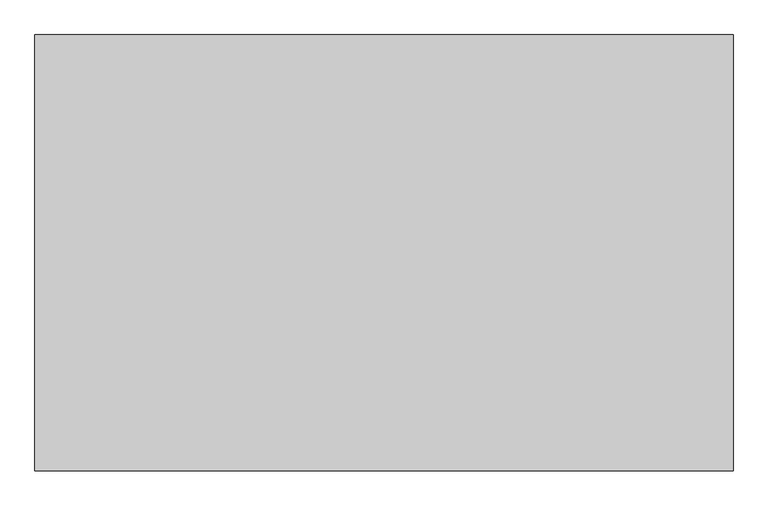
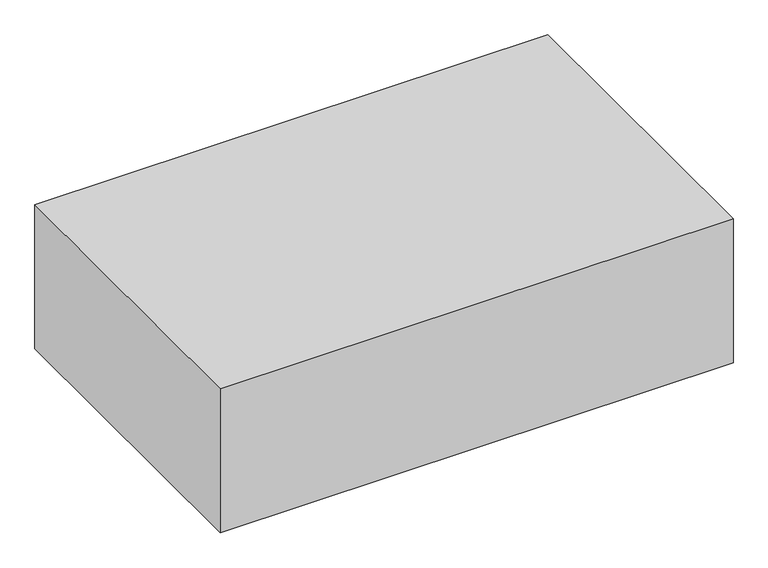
"""IFC4 building model written with IfcOpenShell, lengths in millimetres: proxy geometry, DMS-BWIC Family : BWIC_Square."""

from ifc_helpers import new_model, si_unit, frame, origin, place, context, project, spatial, polyline, outline, extrude, source, transform, mapped, element, save


def generic_models_13c7f0e2(model_context):
    return source(origin(), model_context, "Body", "SweptSolid", [
        extrude(outline(polyline([(741.6401409, 463.6818109), (741.6401409, -463.6818109), (-741.6401409, -463.6818109), (-741.6401409, 463.6818109), (741.6401409, 463.6818109)])), frame((0.0, 0.0, -440.0), z_axis=(0.0, 0.0, 1.0), x_axis=(1.0, 0.0, 0.0)), (0.0, 0.0, 1.0), 440.0),
    ])


if __name__ == "__main__":
    model = new_model("IFC4")
    model_context = context("Model", 3, world=origin())
    ifc_project = project(units=[si_unit("LENGTHUNIT", "METRE", prefix="MILLI")], contexts=[model_context])
    site = spatial("IfcSite", under=ifc_project)
    building = spatial("IfcBuilding", under=site)
    placement = place(None, origin())
    generic_models_shape = generic_models_13c7f0e2(model_context)
    element("IfcBuildingElementProxy", 1, Name="DMS-BWIC Family : BWIC_Square", ObjectType="DMS-BWIC Family : BWIC_Square", at=placement, inside=building, context=model_context, shape_type="MappedRepresentation", body=[
        mapped(generic_models_shape, transform((0.0, 0.0, 0.0), x_axis=(1.0, 0.0, 0.0), y_axis=(0.0, 1.0, 0.0), z_axis=(0.0, 0.0, 1.0))),
    ])
    save(model, "model.ifc")
